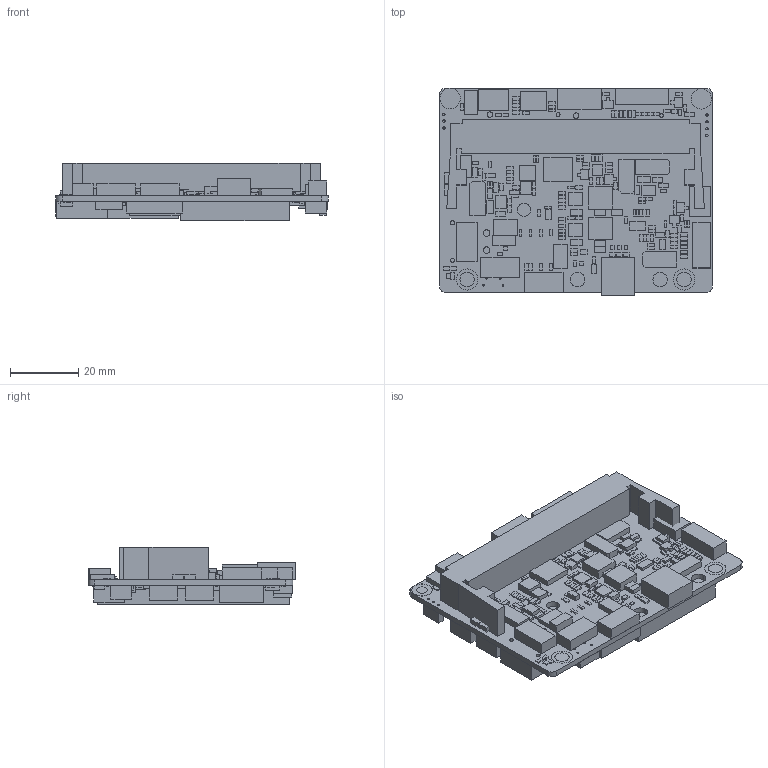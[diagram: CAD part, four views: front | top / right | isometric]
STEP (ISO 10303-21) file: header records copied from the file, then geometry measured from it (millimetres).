
FILE_DESCRIPTION (( 'STEP AP214' ), '1' );
FILE_NAME ('y-c7-v1-0_asm.STEP', '2021-08-06T02:52:54', ( 'gcs' ), ( '' ), 'SwSTEP 2.0', 'SolidWorks 2016', '' );
FILE_SCHEMA (( 'AUTOMOTIVE_DESIGN' ));
Length unit declared in the file: inch
Products named in the file (62): T520B337M006ATE040_1; LM1117IMPX-3_3_1; SMMS0420-2R2M_1; PCIE-52P56H_1; Y-C7-V1-0_1; AFC07-S20FCC-00_1; SN74AVCH4T245PWT_1; APCI0136-P001A_1; 53261-0871_1; MMBT3904LT1_1; HOLE4R22-D6R2MM_1; FSV20150V_1; SN74LV1T125DBVR_1; FSUSB30UMX_1; TCAN332DCN_1; DLP11TB800UL2_1; RT9728BHGE_1; 53261-0271_1; LED0603_1; TPD1E05U06DPYR-TP_1; SN74LVC1T45DBVR_1; TXS0104EPWR_1; MK5P_1; NUP2105L_1; HDR200M-1X3_1; NCP380HSNAJAAT1G_1; M3295NL_1; C0402_1; MSP5_0A-M3_1; MWSA0603S-2R2MT_1; ESDA14V2L_1; RT8097CHGB_1; 2309413-1_1; DMN26D0UFB4-7_1; FB0603_1; T521V107M016ATE050_1; XT30PW-M_1; HOLE3R2-D6MM_1; MAX3232IPWR_1; C0805_1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
Assembly tree (374 placements, depth 2):
  y-c7-v1-0_asm
    Y-C7-V1-0_1
    HOLE3R8-D6R2MM_1
    GT-USB-7065_1
    TPD1E05U06DPYR-TP_1  x14
    RT9728BHGE_1  x2
    HOLE4R22-D6R2MM_1  x4
    APCI0136-P001A_1
    PCIE-52P56H_1
    53261-0571_1
    53261-0471_1  x3
    53261-0271_1  x3
    53261-0871_1
    XT30PW-M_1
    AFC07-S20FCC-00_1
    MWSA0603S-2R2MT_1  x2
    PMV32UP_1
    NCP380HSNAJAAT1G_1
    DLP11TB800UL2_1  x8
    AFA07-S15FCC-00_1
    SMMS0420-2R2M_1  x2
    T520B337M006ATE040_1  x3
    LM1117IMPX-3_3_1
    SN74LVC1G07DBVR_1  x2
    RT8097CHGB_1  x2
    SN74LV1T125DBVR_1  x2
    TCAN332DCN_1
    EFM8SB10F2G-A-QFN20_1
    SIC437BED-T1-GE3_1  x2
    SDINBDA4-64G_1
    HOLE3R2-D6MM_1  x2
    TP40_1  x6
    LED0603_1  x2
    FB0603_1  x2
    C0805_1  x22
    SMAJ24CA_1
    MSP5_0A-M3_1  x3
    C1812_1  x2
    C0603_1  x11
    T521V107M016ATE050_1  x4
    C0402_1  x69
    R0402_1  x130
    NUP2105L_1
    ESDA14V2L_1  x4
    FSV20150V_1
    ESD122DMX_1  x22
    BAT54C_1  x4
    DMN26D0UFB4-7_1  x7
    HDR200M-1X3_1
    MMBT3904LT1_1
    HDR200M-1X4_1
    GH-4PWT_1  x2
    SN74LVC1T45DBVR_1
    MK5P_1
    FSUSB30UMX_1
    GH-8PWT_1
    TXS0104EPWR_1
    MAX3232IPWR_1
    SN74AVCH4T245PWT_1  x2
    M3295NL_1
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Bounding box: 80 x 60.95 x 16.72 mm (x, y, z)
Volume: 34100.2 mm3; surface area: 31184.8 mm2
Topology: 374 solids, 374 shells, 2400 faces, 4956 edges, 3304 vertices
Faces by surface type: plane 2290, cylinder 110
Entity records: 19664 total; most frequent: DIRECTION 3092, CARTESIAN_POINT 2767, ORIENTED_EDGE 2268, EDGE_CURVE 1134, AXIS2_PLACEMENT_3D 1081, VECTOR 930, LINE 930, VERTEX_POINT 756
